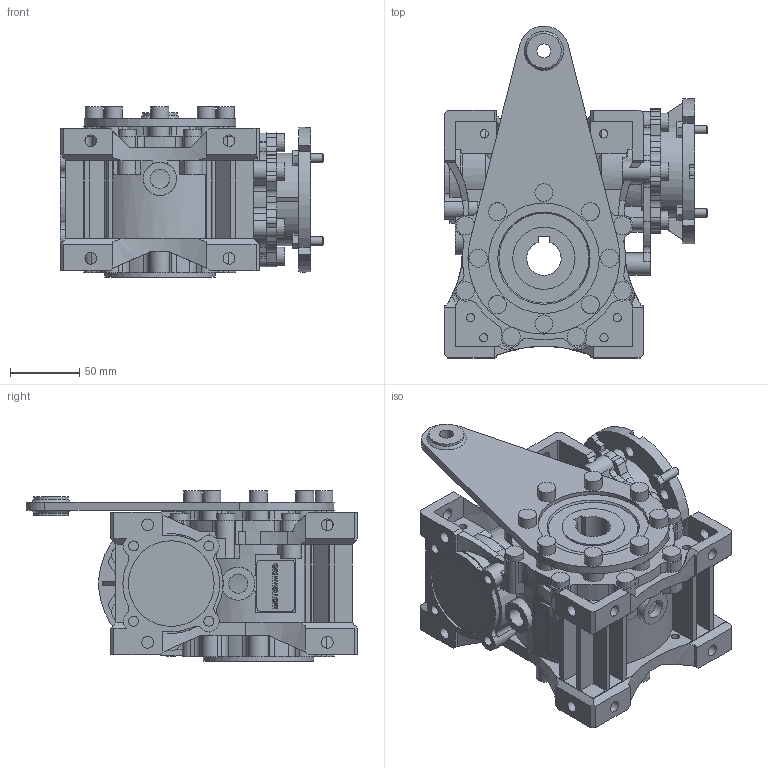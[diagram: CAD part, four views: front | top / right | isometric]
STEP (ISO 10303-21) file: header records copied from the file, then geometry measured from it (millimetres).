
FILE_DESCRIPTION(/* description */ ('STEP AP203'),/* implementation_level */ '2;1');
FILE_NAME(/* name */ 'NMRVP_063_105x14_25_NO_NO_-_-_NO_-_D_5_NO_NO_-_---_---------------',/* time_stamp */ '2025-12-03T05:26:24+01:00',/* author */ ('License CC BY-ND 4.0'),/* organization */ ('CADENAS'),/* preprocessor_version */ 'ST-DEVELOPER v20',/* originating_system */ 'PARTsolutions',/* authorisation */ ' ');
FILE_SCHEMA (('CONFIG_CONTROL_DESIGN'));
Length unit declared in the file: millimetre
Products named in the file (7): NMRVP 063 105x14 25 NO NO - - NO - D 5 NO NO - ---(---------------); W.063.01.M; 063-25 (112); W.063.14.14.M-p; 6371 B14; 63-45; 63-150-p
Assembly tree (6 placements, depth 2):
  NMRVP 063 105x14 25 NO NO - - NO - D 5 NO NO - ---(---------------)
    W.063.01.M
    063-25 (112)
    W.063.14.14.M-p
    6371 B14
    63-45
    63-150-p
Bounding box: 190.44 x 240 x 123 mm (x, y, z)
Volume: 1932210.3 mm3; surface area: 339788.5 mm2
Topology: 6 solids, 10 shells, 1632 faces, 4432 edges, 2935 vertices
Faces by surface type: plane 907, cylinder 662, cone 61, torus 2
Full cylindrical faces by diameter (mm): 6 x16, 6.647 x16, 7.26 x12, 7.8 x1, 8.5 x20, 10 x1, 13 x22, 14 x3, 24 x1, 25 x2, 27 x1, 35 x1, 37 x1, 44 x1, 45 x3, 62 x3, 68 x2, 70 x1, 80 x3
Entity records: 51356 total; most frequent: CARTESIAN_POINT 9567, DIRECTION 8840, ORIENTED_EDGE 8508, EDGE_CURVE 4254, AXIS2_PLACEMENT_3D 3158, VERTEX_POINT 2896, LINE 2524, VECTOR 2524
